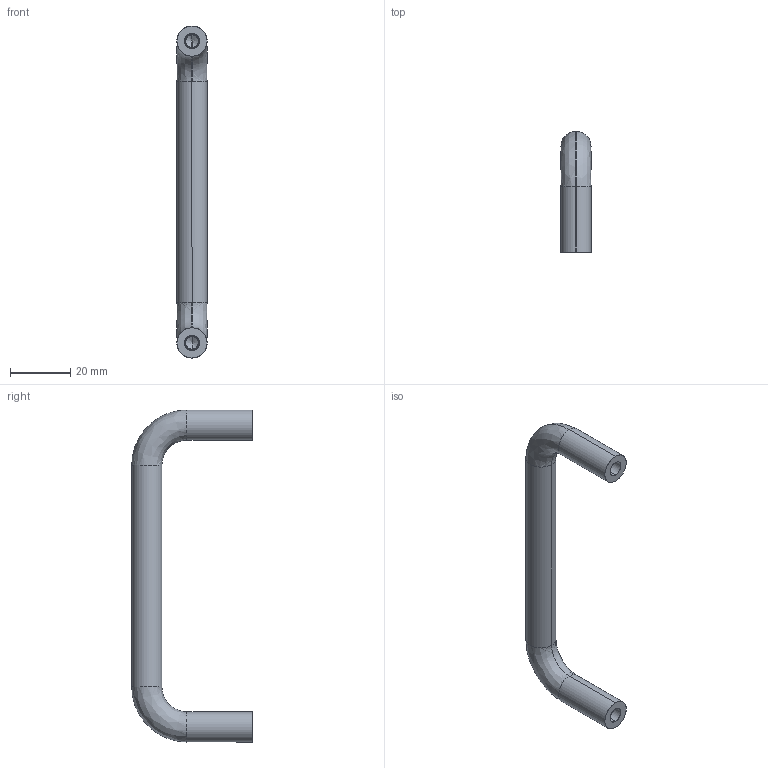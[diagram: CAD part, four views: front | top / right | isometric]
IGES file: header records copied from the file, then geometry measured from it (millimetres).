
Start section: SolidWorks IGES file using analytic representation for surfaces
Global section: file name: C:\Users\IanO\Desktop\Temp File\Process pending\79840_v2\79840_v2_20171115_IGES\79840.W0010.igs; native system: SolidWorks 2017; preprocessor: SolidWorks 2017; author: IanO; date: 171115.103700; units: millimetre
Bounding box: 10 x 40 x 110 mm (x, y, z)
Surface area: 5491.7 mm2 (no closed solid volume)
Topology: 0 solids, 0 shells, 26 faces, 344 edges, 340 vertices
Faces by surface type: revolution 18, bspline 8
